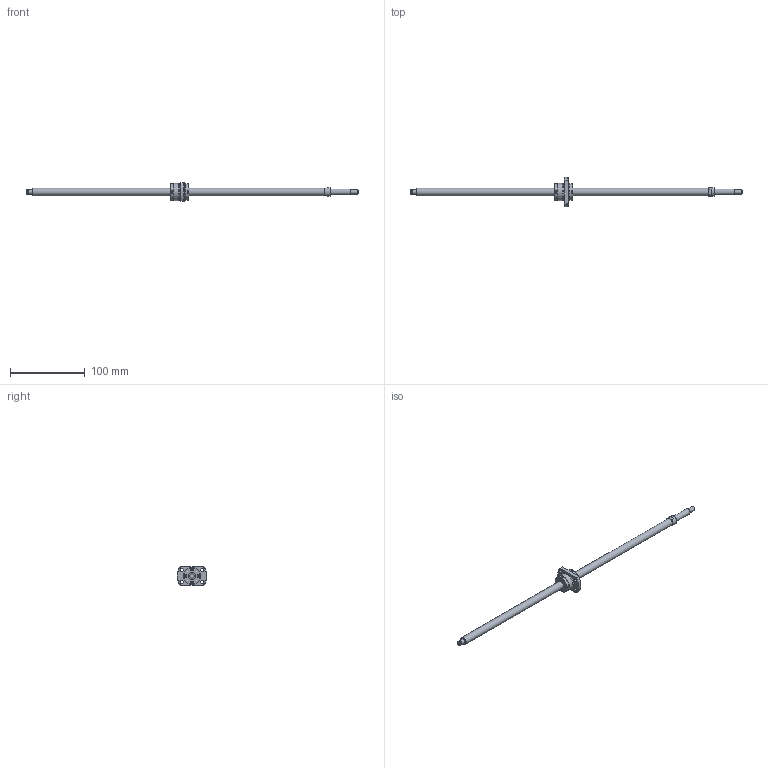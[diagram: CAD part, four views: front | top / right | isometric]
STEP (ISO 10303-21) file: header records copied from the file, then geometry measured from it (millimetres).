
FILE_DESCRIPTION(/* description */ ('STEP AP214'),/* implementation_level */ '2;1');
FILE_NAME(/* name */ 'SRT1010-387R445C7B0X(185Processing)',/* time_stamp */ '2026-08-06T15:11:12+02:00',/* author */ ('License CC BY-ND 4.0'),/* organization */ ('CADENAS'),/* preprocessor_version */ 'ST-DEVELOPER v20',/* originating_system */ 'PARTsolutions',/* authorisation */ ' ');
FILE_SCHEMA (('AUTOMOTIVE_DESIGN {1 0 10303 214 3 1 1}'));
Length unit declared in the file: millimetre
Products named in the file (3): SRT1010-387R445C7B0X(185Processing); SRT1010-387R470BCt7Processing66Shaft; SRT1010Nut
Assembly tree (2 placements, depth 2):
  SRT1010-387R445C7B0X(185Processing)
    SRT1010-387R470BCt7Processing66Shaft
    SRT1010Nut
Bounding box: 445 x 40 x 25 mm (x, y, z)
Volume: 43414.7 mm3; surface area: 18618.8 mm2
Topology: 2 solids, 2 shells, 155 faces, 367 edges, 241 vertices
Faces by surface type: plane 109, cylinder 35, cone 10, torus 1
Full cylindrical faces by diameter (mm): 3.8 x8, 4.5 x4, 5.7 x1, 6 x3, 8 x1, 10 x2, 11.5 x1, 22.5 x3, 23 x2
Entity records: 4367 total; most frequent: CARTESIAN_POINT 752, DIRECTION 738, ORIENTED_EDGE 664, EDGE_CURVE 332, AXIS2_PLACEMENT_3D 256, VERTEX_POINT 238, LINE 226, VECTOR 226
